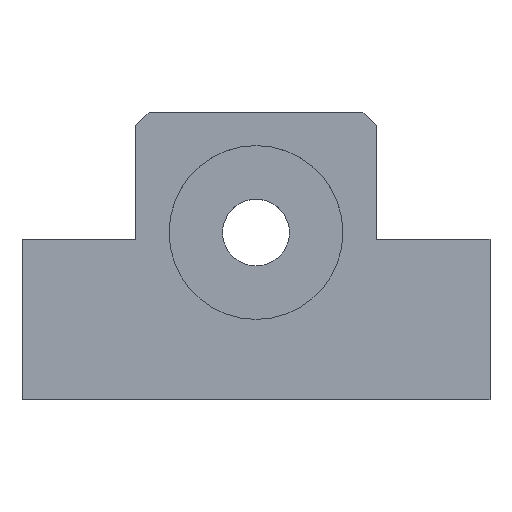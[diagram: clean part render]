
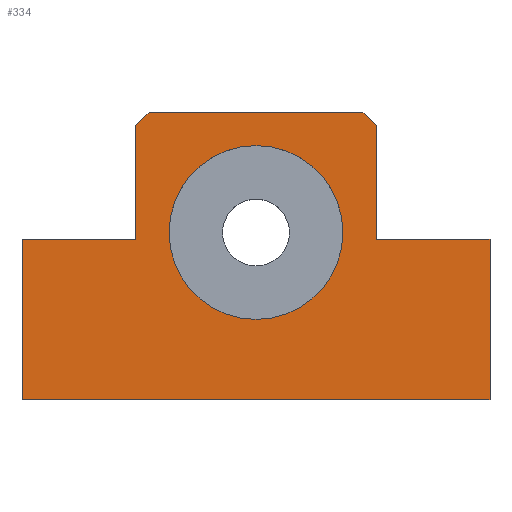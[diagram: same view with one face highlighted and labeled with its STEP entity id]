
A CAD part, top view. The second image highlights one B-rep face of the part: STEP entity #334.
In plain terms, the highlighted planar face has unit normal (0, 0, 1).
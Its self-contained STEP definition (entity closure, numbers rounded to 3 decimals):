
#36=FACE_BOUND($,#91,.T.);
#42=CIRCLE($,#351,13.);
#59=FACE_OUTER_BOUND($,#90,.T.);
#90=EDGE_LOOP($,(#291,#292,#293,#294,#295,#296,#297,#298,#299,#300));
#91=EDGE_LOOP($,(#301));
#92=LINE($,#461,#122);
#98=LINE($,#472,#128);
#107=LINE($,#493,#137);
#110=LINE($,#524,#140);
#112=LINE($,#528,#142);
#114=LINE($,#531,#144);
#115=LINE($,#534,#145);
#117=LINE($,#538,#147);
#119=LINE($,#542,#149);
#121=LINE($,#545,#151);
#122=VECTOR($,#371,2.828);
#128=VECTOR($,#379,32.);
#137=VECTOR($,#394,2.828);
#140=VECTOR($,#431,24.);
#142=VECTOR($,#435,17.);
#144=VECTOR($,#439,17.);
#145=VECTOR($,#442,17.);
#147=VECTOR($,#446,17.);
#149=VECTOR($,#450,24.);
#151=VECTOR($,#454,70.);
#152=VERTEX_POINT($,#459);
#153=VERTEX_POINT($,#460);
#157=VERTEX_POINT($,#470);
#166=VERTEX_POINT($,#492);
#171=VERTEX_POINT($,#507);
#176=VERTEX_POINT($,#521);
#177=VERTEX_POINT($,#523);
#178=VERTEX_POINT($,#527);
#179=VERTEX_POINT($,#533);
#180=VERTEX_POINT($,#537);
#181=VERTEX_POINT($,#541);
#182=EDGE_CURVE($,#152,#153,#92,.T.);
#188=EDGE_CURVE($,#152,#157,#98,.T.);
#198=EDGE_CURVE($,#166,#157,#107,.T.);
#204=EDGE_CURVE($,#171,#171,#42,.T.);
#210=EDGE_CURVE($,#177,#176,#110,.T.);
#212=EDGE_CURVE($,#178,#177,#112,.T.);
#214=EDGE_CURVE($,#166,#178,#114,.T.);
#215=EDGE_CURVE($,#179,#153,#115,.T.);
#217=EDGE_CURVE($,#180,#179,#117,.T.);
#219=EDGE_CURVE($,#181,#180,#119,.T.);
#221=EDGE_CURVE($,#176,#181,#121,.T.);
#291=ORIENTED_EDGE($,*,*,#182,.F.);
#292=ORIENTED_EDGE($,*,*,#188,.T.);
#293=ORIENTED_EDGE($,*,*,#198,.F.);
#294=ORIENTED_EDGE($,*,*,#214,.T.);
#295=ORIENTED_EDGE($,*,*,#212,.T.);
#296=ORIENTED_EDGE($,*,*,#210,.T.);
#297=ORIENTED_EDGE($,*,*,#221,.T.);
#298=ORIENTED_EDGE($,*,*,#219,.T.);
#299=ORIENTED_EDGE($,*,*,#217,.T.);
#300=ORIENTED_EDGE($,*,*,#215,.T.);
#301=ORIENTED_EDGE($,*,*,#204,.T.);
#315=PLANE($,#366);
#334=ADVANCED_FACE($,(#59,#36),#315,.T.);
#351=AXIS2_PLACEMENT_3D($,#508,#412,#413);
#366=AXIS2_PLACEMENT_3D($,#546,#455,#456);
#371=DIRECTION($,(0.707,-0.707,0.));
#379=DIRECTION($,(-1.,0.,0.));
#394=DIRECTION($,(0.707,0.707,0.));
#412=DIRECTION('center_axis',(0.,0.,-1.));
#413=DIRECTION('ref_axis',(-1.,0.,0.));
#431=DIRECTION($,(0.,-1.,0.));
#435=DIRECTION($,(-1.,0.,0.));
#439=DIRECTION($,(0.,-1.,0.));
#442=DIRECTION($,(0.,1.,0.));
#446=DIRECTION($,(-1.,0.,0.));
#450=DIRECTION($,(0.,1.,0.));
#454=DIRECTION($,(1.,0.,0.));
#455=DIRECTION('center_axis',(0.,0.,1.));
#456=DIRECTION('ref_axis',(1.,0.,0.));
#459=CARTESIAN_POINT('',(51.,43.,20.));
#460=CARTESIAN_POINT('',(53.,41.,20.));
#461=CARTESIAN_POINT($,(53.59,40.41,20.));
#470=CARTESIAN_POINT('',(19.,43.,20.));
#472=CARTESIAN_POINT($,(53.,43.,20.));
#492=CARTESIAN_POINT('',(17.,41.,20.));
#493=CARTESIAN_POINT($,(16.41,40.41,20.));
#507=CARTESIAN_POINT('',(48.,25.,20.));
#508=CARTESIAN_POINT('Origin',(35.,25.,20.));
#521=CARTESIAN_POINT('',(0.,0.,20.));
#523=CARTESIAN_POINT('',(0.,24.,20.));
#524=CARTESIAN_POINT($,(0.,24.,20.));
#527=CARTESIAN_POINT('',(17.,24.,20.));
#528=CARTESIAN_POINT($,(17.,24.,20.));
#531=CARTESIAN_POINT($,(17.,43.,20.));
#533=CARTESIAN_POINT('',(53.,24.,20.));
#534=CARTESIAN_POINT($,(53.,24.,20.));
#537=CARTESIAN_POINT('',(70.,24.,20.));
#538=CARTESIAN_POINT($,(70.,24.,20.));
#541=CARTESIAN_POINT('',(70.,0.,20.));
#542=CARTESIAN_POINT($,(70.,0.,20.));
#545=CARTESIAN_POINT($,(0.,0.,20.));
#546=CARTESIAN_POINT('Origin',(35.,18.642,20.));
